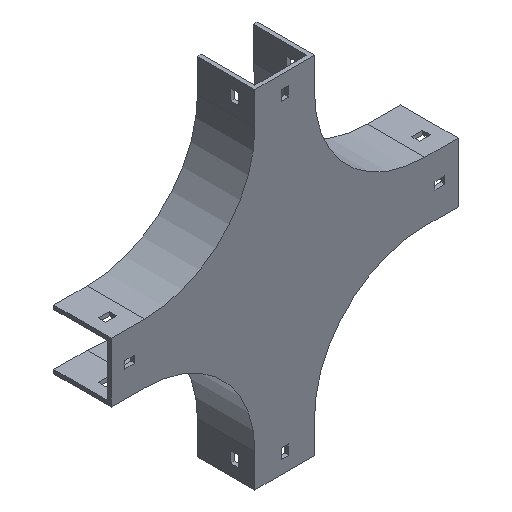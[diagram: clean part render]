
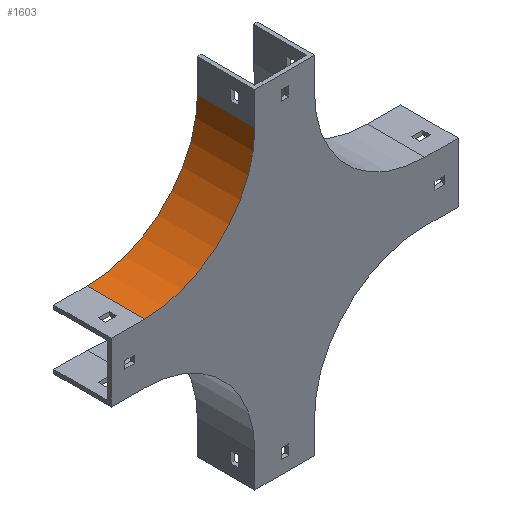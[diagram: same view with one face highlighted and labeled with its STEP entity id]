
A CAD part, isometric view. The second image highlights one B-rep face of the part: STEP entity #1603.
In plain terms, the highlighted cylindrical face has radius 100 mm (diameter 200 mm), a partial arc.
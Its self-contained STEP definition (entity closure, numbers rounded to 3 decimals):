
#52 = EDGE_CURVE ( 'NONE', #359, #191, #1741, .T. ) ;
#122 = VERTEX_POINT ( 'NONE', #1873 ) ;
#189 = VECTOR ( 'NONE', #1571, 1000. ) ;
#191 = VERTEX_POINT ( 'NONE', #2480 ) ;
#196 = CIRCLE ( 'NONE', #671, 100. ) ;
#240 = CYLINDRICAL_SURFACE ( 'NONE', #1107, 100. ) ;
#359 = VERTEX_POINT ( 'NONE', #1485 ) ;
#373 = ORIENTED_EDGE ( 'NONE', *, *, #52, .T. ) ;
#446 = FACE_OUTER_BOUND ( 'NONE', #1522, .T. ) ;
#521 = ORIENTED_EDGE ( 'NONE', *, *, #2154, .F. ) ;
#608 = CARTESIAN_POINT ( 'NONE',  ( -154., 0., 0. ) ) ;
#615 = DIRECTION ( 'NONE',  ( 0., 0., -1. ) ) ;
#671 = AXIS2_PLACEMENT_3D ( 'NONE', #1077, #878, #1727 ) ;
#831 = VERTEX_POINT ( 'NONE', #608 ) ;
#878 = DIRECTION ( 'NONE',  ( 0., -1., 0. ) ) ;
#932 = LINE ( 'NONE', #2657, #2592 ) ;
#952 = EDGE_CURVE ( 'NONE', #191, #831, #1060, .T. ) ;
#1028 = DIRECTION ( 'NONE',  ( 0., -1., 0. ) ) ;
#1060 = CIRCLE ( 'NONE', #1792, 100. ) ;
#1077 = CARTESIAN_POINT ( 'NONE',  ( -254., 52., 0. ) ) ;
#1106 = CARTESIAN_POINT ( 'NONE',  ( -254., 52., -100. ) ) ;
#1107 = AXIS2_PLACEMENT_3D ( 'NONE', #2313, #1028, #615 ) ;
#1149 = DIRECTION ( 'NONE',  ( 0., -1., 0. ) ) ;
#1211 = EDGE_CURVE ( 'NONE', #122, #831, #932, .T. ) ;
#1485 = CARTESIAN_POINT ( 'NONE',  ( -254., 52., -100. ) ) ;
#1522 = EDGE_LOOP ( 'NONE', ( #2402, #2550, #521, #373 ) ) ;
#1571 = DIRECTION ( 'NONE',  ( 0., -1., 0. ) ) ;
#1603 = ADVANCED_FACE ( 'NONE', ( #446 ), #240, .F. ) ;
#1727 = DIRECTION ( 'NONE',  ( 0., 0., 1. ) ) ;
#1741 = LINE ( 'NONE', #1106, #189 ) ;
#1748 = CARTESIAN_POINT ( 'NONE',  ( -254., 0., 0. ) ) ;
#1792 = AXIS2_PLACEMENT_3D ( 'NONE', #1748, #2560, #2582 ) ;
#1873 = CARTESIAN_POINT ( 'NONE',  ( -154., 52., 0. ) ) ;
#2154 = EDGE_CURVE ( 'NONE', #359, #122, #196, .T. ) ;
#2313 = CARTESIAN_POINT ( 'NONE',  ( -254., 52., 0. ) ) ;
#2402 = ORIENTED_EDGE ( 'NONE', *, *, #952, .T. ) ;
#2480 = CARTESIAN_POINT ( 'NONE',  ( -254., 0., -100. ) ) ;
#2550 = ORIENTED_EDGE ( 'NONE', *, *, #1211, .F. ) ;
#2560 = DIRECTION ( 'NONE',  ( 0., -1., 0. ) ) ;
#2582 = DIRECTION ( 'NONE',  ( 0., 0., 1. ) ) ;
#2592 = VECTOR ( 'NONE', #1149, 1000. ) ;
#2657 = CARTESIAN_POINT ( 'NONE',  ( -154., 52., 0. ) ) ;
